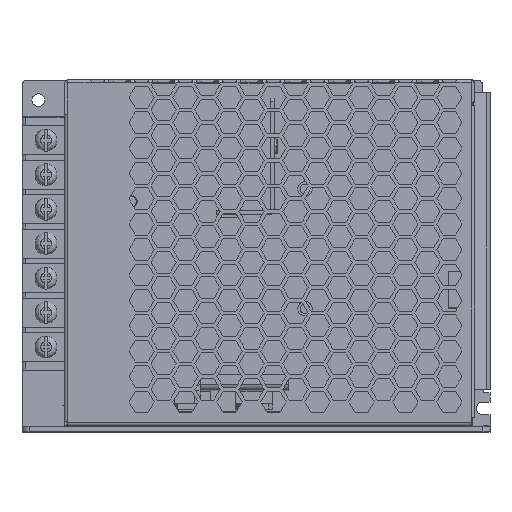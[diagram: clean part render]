
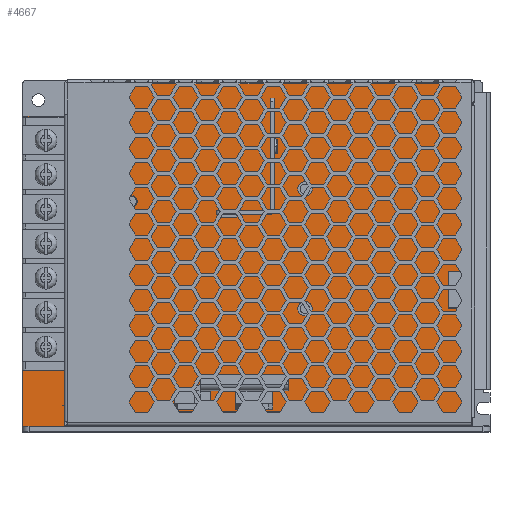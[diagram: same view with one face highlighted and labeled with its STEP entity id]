
A CAD part, top view. The second image highlights one B-rep face of the part: STEP entity #4667.
In plain terms, the highlighted planar face has unit normal (0, 0, 1).
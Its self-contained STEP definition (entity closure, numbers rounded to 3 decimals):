
#4042=DIRECTION('',(0.,-1.,0.));
#4043=VECTOR('',#4042,85.4);
#4044=CARTESIAN_POINT('',(-299.417,290.025,0.));
#4045=LINE('',#4044,#4043);
#4049=DIRECTION('',(0.,-1.,0.));
#4050=VECTOR('',#4049,9.);
#4051=CARTESIAN_POINT('',(-287.934,299.025,0.));
#4052=LINE('',#4051,#4050);
#4056=DIRECTION('',(-1.,0.,0.));
#4057=VECTOR('',#4056,110.517);
#4058=CARTESIAN_POINT('',(-177.417,299.025,0.));
#4059=LINE('',#4058,#4057);
#4063=DIRECTION('',(0.,1.,0.));
#4064=VECTOR('',#4063,94.4);
#4065=CARTESIAN_POINT('',(-177.417,204.625,0.));
#4066=LINE('',#4065,#4064);
#4070=DIRECTION('',(1.,0.,0.));
#4071=VECTOR('',#4070,9.805);
#4072=CARTESIAN_POINT('',(-187.222,204.625,0.));
#4073=LINE('',#4072,#4071);
#4077=DIRECTION('',(1.,0.,0.));
#4078=VECTOR('',#4077,30.055);
#4079=CARTESIAN_POINT('',(-224.167,204.625,0.));
#4080=LINE('',#4079,#4078);
#4084=DIRECTION('',(1.,0.,0.));
#4085=VECTOR('',#4084,35.25);
#4086=CARTESIAN_POINT('',(-299.417,204.625,0.));
#4087=LINE('',#4086,#4085);
#4091=CARTESIAN_POINT('',(-269.667,266.525,0.));
#4092=DIRECTION('',(0.,0.,-1.));
#4093=DIRECTION('',(1.,0.,0.));
#4094=AXIS2_PLACEMENT_3D('',#4091,#4092,#4093);
#4099=CARTESIAN_POINT('',(-269.667,266.525,0.));
#4100=DIRECTION('',(0.,0.,-1.));
#4101=DIRECTION('',(-1.,0.,0.));
#4102=AXIS2_PLACEMENT_3D('',#4099,#4100,#4101);
#4107=CARTESIAN_POINT('',(-221.667,237.025,0.));
#4108=DIRECTION('',(0.,0.,-1.));
#4109=DIRECTION('',(-1.,0.,0.));
#4110=AXIS2_PLACEMENT_3D('',#4107,#4108,#4109);
#4115=CARTESIAN_POINT('',(-221.667,237.025,0.));
#4116=DIRECTION('',(0.,0.,-1.));
#4117=DIRECTION('',(1.,0.,0.));
#4118=AXIS2_PLACEMENT_3D('',#4115,#4116,#4117);
#4123=CARTESIAN_POINT('',(-288.371,210.372,0.));
#4124=DIRECTION('',(0.,0.,-1.));
#4125=DIRECTION('',(1.,0.,0.));
#4126=AXIS2_PLACEMENT_3D('',#4123,#4124,#4125);
#4131=CARTESIAN_POINT('',(-288.371,210.372,0.));
#4132=DIRECTION('',(0.,0.,-1.));
#4133=DIRECTION('',(-1.,0.,0.));
#4134=AXIS2_PLACEMENT_3D('',#4131,#4132,#4133);
#4139=CARTESIAN_POINT('',(-221.667,270.025,0.));
#4140=DIRECTION('',(0.,0.,-1.));
#4141=DIRECTION('',(1.,0.,0.));
#4142=AXIS2_PLACEMENT_3D('',#4139,#4140,#4141);
#4147=CARTESIAN_POINT('',(-221.667,270.025,0.));
#4148=DIRECTION('',(0.,0.,-1.));
#4149=DIRECTION('',(-1.,0.,0.));
#4150=AXIS2_PLACEMENT_3D('',#4147,#4148,#4149);
#4183=DIRECTION('',(1.,0.,0.));
#4184=VECTOR('',#4183,11.483);
#4185=CARTESIAN_POINT('',(-299.417,290.025,0.));
#4186=LINE('',#4185,#4184);
#4317=DIRECTION('',(0.,-1.,0.));
#4318=VECTOR('',#4317,3.9);
#4319=CARTESIAN_POINT('',(-264.167,208.525,0.));
#4320=LINE('',#4319,#4318);
#4324=DIRECTION('',(-1.,0.,0.));
#4325=VECTOR('',#4324,40.);
#4326=CARTESIAN_POINT('',(-224.167,208.525,0.));
#4327=LINE('',#4326,#4325);
#4352=DIRECTION('',(0.,1.,0.));
#4353=VECTOR('',#4352,3.9);
#4354=CARTESIAN_POINT('',(-224.167,204.625,0.));
#4355=LINE('',#4354,#4353);
#4366=DIRECTION('',(0.,-1.,0.));
#4367=VECTOR('',#4366,1.81);
#4368=CARTESIAN_POINT('',(-194.112,206.435,0.));
#4369=LINE('',#4368,#4367);
#4380=DIRECTION('',(-1.,0.,0.));
#4381=VECTOR('',#4380,6.89);
#4382=CARTESIAN_POINT('',(-187.222,206.435,0.));
#4383=LINE('',#4382,#4381);
#4408=DIRECTION('',(0.,1.,0.));
#4409=VECTOR('',#4408,1.81);
#4410=CARTESIAN_POINT('',(-187.222,204.625,0.));
#4411=LINE('',#4410,#4409);
#4520=CARTESIAN_POINT('',(-299.417,290.025,0.));
#4521=CARTESIAN_POINT('',(-287.934,290.025,0.));
#4522=VERTEX_POINT('',#4520);
#4523=VERTEX_POINT('',#4521);
#4524=CARTESIAN_POINT('',(-287.934,299.025,0.));
#4525=VERTEX_POINT('',#4524);
#4526=CARTESIAN_POINT('',(-177.417,299.025,0.));
#4527=VERTEX_POINT('',#4526);
#4528=CARTESIAN_POINT('',(-177.417,204.625,0.));
#4529=VERTEX_POINT('',#4528);
#4530=CARTESIAN_POINT('',(-187.222,204.625,0.));
#4531=VERTEX_POINT('',#4530);
#4532=CARTESIAN_POINT('',(-187.222,206.435,0.));
#4533=VERTEX_POINT('',#4532);
#4534=CARTESIAN_POINT('',(-194.112,206.435,0.));
#4535=VERTEX_POINT('',#4534);
#4536=CARTESIAN_POINT('',(-194.112,204.625,0.));
#4537=VERTEX_POINT('',#4536);
#4538=CARTESIAN_POINT('',(-224.167,204.625,0.));
#4539=VERTEX_POINT('',#4538);
#4540=CARTESIAN_POINT('',(-224.167,208.525,0.));
#4541=VERTEX_POINT('',#4540);
#4542=CARTESIAN_POINT('',(-264.167,208.525,0.));
#4543=VERTEX_POINT('',#4542);
#4544=CARTESIAN_POINT('',(-264.167,204.625,0.));
#4545=VERTEX_POINT('',#4544);
#4546=CARTESIAN_POINT('',(-299.417,204.625,0.));
#4547=VERTEX_POINT('',#4546);
#4548=CARTESIAN_POINT('',(-271.417,266.525,0.));
#4549=CARTESIAN_POINT('',(-267.917,266.525,0.));
#4550=VERTEX_POINT('',#4548);
#4551=VERTEX_POINT('',#4549);
#4552=CARTESIAN_POINT('',(-219.667,237.025,0.));
#4553=CARTESIAN_POINT('',(-223.667,237.025,0.));
#4554=VERTEX_POINT('',#4552);
#4555=VERTEX_POINT('',#4553);
#4556=CARTESIAN_POINT('',(-288.433,210.372,0.));
#4557=CARTESIAN_POINT('',(-288.308,210.372,0.));
#4558=VERTEX_POINT('',#4556);
#4559=VERTEX_POINT('',#4557);
#4560=CARTESIAN_POINT('',(-223.667,270.025,0.));
#4561=CARTESIAN_POINT('',(-219.667,270.025,0.));
#4562=VERTEX_POINT('',#4560);
#4563=VERTEX_POINT('',#4561);
#4608=CARTESIAN_POINT('',(0.,0.,0.));
#4609=DIRECTION('',(0.,0.,1.));
#4610=DIRECTION('',(1.,0.,0.));
#4611=AXIS2_PLACEMENT_3D('',#4608,#4609,#4610);
#4612=PLANE('',#4611);
#4614=ORIENTED_EDGE('',*,*,#4613,.F.);
#4616=ORIENTED_EDGE('',*,*,#4615,.T.);
#4618=ORIENTED_EDGE('',*,*,#4617,.F.);
#4620=ORIENTED_EDGE('',*,*,#4619,.F.);
#4622=ORIENTED_EDGE('',*,*,#4621,.F.);
#4624=ORIENTED_EDGE('',*,*,#4623,.F.);
#4626=ORIENTED_EDGE('',*,*,#4625,.T.);
#4628=ORIENTED_EDGE('',*,*,#4627,.T.);
#4630=ORIENTED_EDGE('',*,*,#4629,.T.);
#4632=ORIENTED_EDGE('',*,*,#4631,.F.);
#4634=ORIENTED_EDGE('',*,*,#4633,.T.);
#4636=ORIENTED_EDGE('',*,*,#4635,.T.);
#4638=ORIENTED_EDGE('',*,*,#4637,.T.);
#4640=ORIENTED_EDGE('',*,*,#4639,.F.);
#4641=EDGE_LOOP('',(#4614,#4616,#4618,#4620,#4622,#4624,#4626,#4628,#4630,#4632,
#4634,#4636,#4638,#4640));
#4642=FACE_OUTER_BOUND('',#4641,.F.);
#4644=ORIENTED_EDGE('',*,*,#4643,.F.);
#4646=ORIENTED_EDGE('',*,*,#4645,.F.);
#4647=EDGE_LOOP('',(#4644,#4646));
#4648=FACE_BOUND('',#4647,.F.);
#4650=ORIENTED_EDGE('',*,*,#4649,.F.);
#4652=ORIENTED_EDGE('',*,*,#4651,.F.);
#4653=EDGE_LOOP('',(#4650,#4652));
#4654=FACE_BOUND('',#4653,.F.);
#4656=ORIENTED_EDGE('',*,*,#4655,.F.);
#4658=ORIENTED_EDGE('',*,*,#4657,.F.);
#4659=EDGE_LOOP('',(#4656,#4658));
#4660=FACE_BOUND('',#4659,.F.);
#4662=ORIENTED_EDGE('',*,*,#4661,.F.);
#4664=ORIENTED_EDGE('',*,*,#4663,.F.);
#4665=EDGE_LOOP('',(#4662,#4664));
#4666=FACE_BOUND('',#4665,.F.);
#4095=CIRCLE('',#4094,1.75);
#4103=CIRCLE('',#4102,1.75);
#4111=CIRCLE('',#4110,2.);
#4119=CIRCLE('',#4118,2.);
#4127=CIRCLE('',#4126,0.062);
#4135=CIRCLE('',#4134,0.062);
#4143=CIRCLE('',#4142,2.);
#4151=CIRCLE('',#4150,2.);
#4613=EDGE_CURVE('',#4522,#4547,#4045,.T.);
#4615=EDGE_CURVE('',#4522,#4523,#4186,.T.);
#4617=EDGE_CURVE('',#4525,#4523,#4052,.T.);
#4619=EDGE_CURVE('',#4527,#4525,#4059,.T.);
#4621=EDGE_CURVE('',#4529,#4527,#4066,.T.);
#4623=EDGE_CURVE('',#4531,#4529,#4073,.T.);
#4625=EDGE_CURVE('',#4531,#4533,#4411,.T.);
#4627=EDGE_CURVE('',#4533,#4535,#4383,.T.);
#4629=EDGE_CURVE('',#4535,#4537,#4369,.T.);
#4631=EDGE_CURVE('',#4539,#4537,#4080,.T.);
#4633=EDGE_CURVE('',#4539,#4541,#4355,.T.);
#4635=EDGE_CURVE('',#4541,#4543,#4327,.T.);
#4637=EDGE_CURVE('',#4543,#4545,#4320,.T.);
#4639=EDGE_CURVE('',#4547,#4545,#4087,.T.);
#4643=EDGE_CURVE('',#4551,#4550,#4095,.T.);
#4645=EDGE_CURVE('',#4550,#4551,#4103,.T.);
#4649=EDGE_CURVE('',#4555,#4554,#4111,.T.);
#4651=EDGE_CURVE('',#4554,#4555,#4119,.T.);
#4655=EDGE_CURVE('',#4559,#4558,#4127,.T.);
#4657=EDGE_CURVE('',#4558,#4559,#4135,.T.);
#4661=EDGE_CURVE('',#4563,#4562,#4143,.T.);
#4663=EDGE_CURVE('',#4562,#4563,#4151,.T.);
#4667=ADVANCED_FACE('',(#4642,#4648,#4654,#4660,#4666),#4612,.T.);
